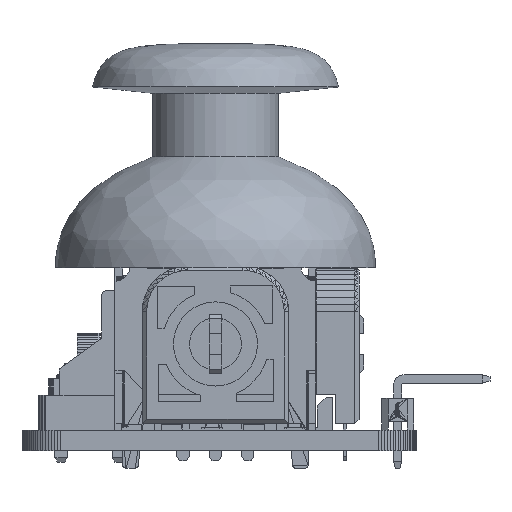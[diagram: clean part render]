
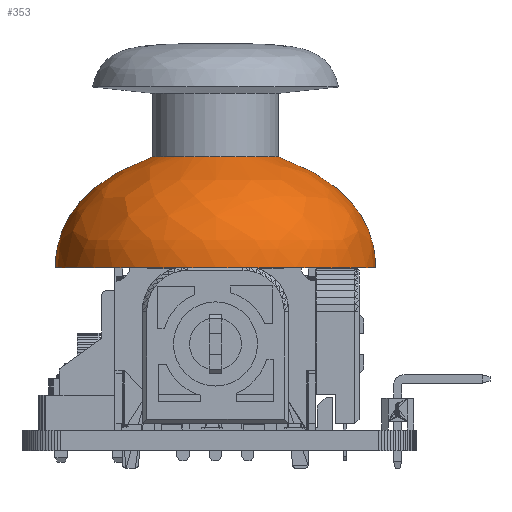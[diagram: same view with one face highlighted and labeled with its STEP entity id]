
A CAD part, left-side view. The second image highlights one B-rep face of the part: STEP entity #353.
In plain terms, the highlighted free-form (B-spline) face has degree [3, 3] with [4, 4] control points.
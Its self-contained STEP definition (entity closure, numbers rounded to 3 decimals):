
#353 = ADVANCED_FACE('',(#354),#392,.F.);
#354 = FACE_BOUND('',#355,.F.);
#355 = EDGE_LOOP('',(#356,#367,#376,#385));
#356 = ORIENTED_EDGE('',*,*,#357,.T.);
#357 = EDGE_CURVE('',#358,#360,#362,.T.);
#358 = VERTEX_POINT('',#359);
#359 = CARTESIAN_POINT('',(15.906,-20.35,21.45));
#360 = VERTEX_POINT('',#361);
#361 = CARTESIAN_POINT('',(15.916,-27.969,12.75));
#362 = B_SPLINE_CURVE_WITH_KNOTS('',3,(#363,#364,#365,#366),
  .UNSPECIFIED.,.F.,.F.,(4,4),(0.,1.),
  .PIECEWISE_BEZIER_KNOTS.);
#363 = CARTESIAN_POINT('',(15.906,-20.35,21.45));
#364 = CARTESIAN_POINT('',(15.911,-24.185,
    20.09));
#365 = CARTESIAN_POINT('',(15.916,-27.969,
    17.532));
#366 = CARTESIAN_POINT('',(15.916,-27.969,12.75));
#367 = ORIENTED_EDGE('',*,*,#368,.T.);
#368 = EDGE_CURVE('',#360,#369,#371,.T.);
#369 = VERTEX_POINT('',#370);
#370 = CARTESIAN_POINT('',(15.884,-2.831,12.75));
#371 = CIRCLE('',#372,12.569);
#372 = AXIS2_PLACEMENT_3D('',#373,#374,#375);
#373 = CARTESIAN_POINT('',(15.9,-15.4,12.75));
#374 = DIRECTION('',(0.,0.,-1.));
#375 = DIRECTION('',(-0.001,1.,
    0.));
#376 = ORIENTED_EDGE('',*,*,#377,.F.);
#377 = EDGE_CURVE('',#378,#369,#380,.T.);
#378 = VERTEX_POINT('',#379);
#379 = CARTESIAN_POINT('',(15.894,-10.45,21.45));
#380 = B_SPLINE_CURVE_WITH_KNOTS('',3,(#381,#382,#383,#384),
  .UNSPECIFIED.,.F.,.F.,(4,4),(0.,1.),
  .PIECEWISE_BEZIER_KNOTS.);
#381 = CARTESIAN_POINT('',(15.894,-10.45,21.45));
#382 = CARTESIAN_POINT('',(15.889,-6.615,
    20.09));
#383 = CARTESIAN_POINT('',(15.884,-2.831,
    17.532));
#384 = CARTESIAN_POINT('',(15.884,-2.831,12.75));
#385 = ORIENTED_EDGE('',*,*,#386,.F.);
#386 = EDGE_CURVE('',#358,#378,#387,.T.);
#387 = CIRCLE('',#388,4.95);
#388 = AXIS2_PLACEMENT_3D('',#389,#390,#391);
#389 = CARTESIAN_POINT('',(15.9,-15.4,21.45));
#390 = DIRECTION('',(0.,0.,-1.));
#391 = DIRECTION('',(-0.001,1.,
    0.));
#392 = ( BOUNDED_SURFACE() B_SPLINE_SURFACE(3,3,(
    (#393,#394,#395,#396)
    ,(#397,#398,#399,#400)
    ,(#401,#402,#403,#404)
    ,(#405,#406,#407,#408
)),.UNSPECIFIED.,.F.,.F.,.F.) B_SPLINE_SURFACE_WITH_KNOTS((4,4),(4,4),(
    0.,1.),(0.,1.),.PIECEWISE_BEZIER_KNOTS.) 
GEOMETRIC_REPRESENTATION_ITEM() RATIONAL_B_SPLINE_SURFACE((
    (1.,0.333,0.333,1.)
    ,(1.,0.333,0.333,1.)
    ,(1.,0.333,0.333,1.)
,(1.,0.333,0.333,1.
))) REPRESENTATION_ITEM('') SURFACE() );
#393 = CARTESIAN_POINT('',(15.906,-20.35,21.45));
#394 = CARTESIAN_POINT('',(6.006,-20.363,21.45));
#395 = CARTESIAN_POINT('',(5.994,-10.463,21.45));
#396 = CARTESIAN_POINT('',(15.894,-10.45,21.45));
#397 = CARTESIAN_POINT('',(15.911,-24.185,
    20.09));
#398 = CARTESIAN_POINT('',(-1.658,-24.208,
    20.09));
#399 = CARTESIAN_POINT('',(-1.681,-6.638,20.09)
  );
#400 = CARTESIAN_POINT('',(15.889,-6.615,
    20.09));
#401 = CARTESIAN_POINT('',(15.916,-27.969,
    17.532));
#402 = CARTESIAN_POINT('',(-9.221,-28.001,
    17.532));
#403 = CARTESIAN_POINT('',(-9.254,-2.864,
    17.532));
#404 = CARTESIAN_POINT('',(15.884,-2.831,
    17.532));
#405 = CARTESIAN_POINT('',(15.916,-27.969,12.75));
#406 = CARTESIAN_POINT('',(-9.221,-28.001,12.75));
#407 = CARTESIAN_POINT('',(-9.254,-2.864,12.75));
#408 = CARTESIAN_POINT('',(15.884,-2.831,12.75));
